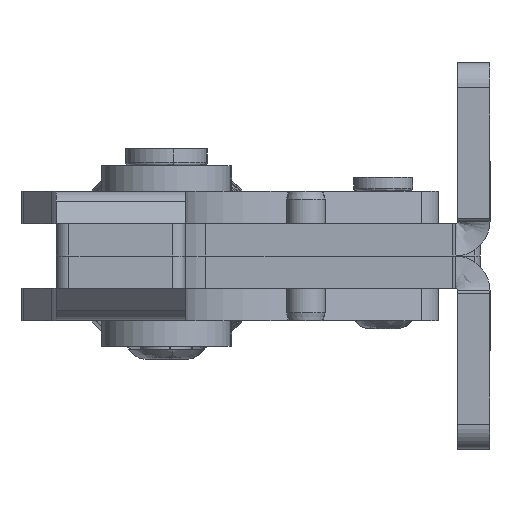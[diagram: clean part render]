
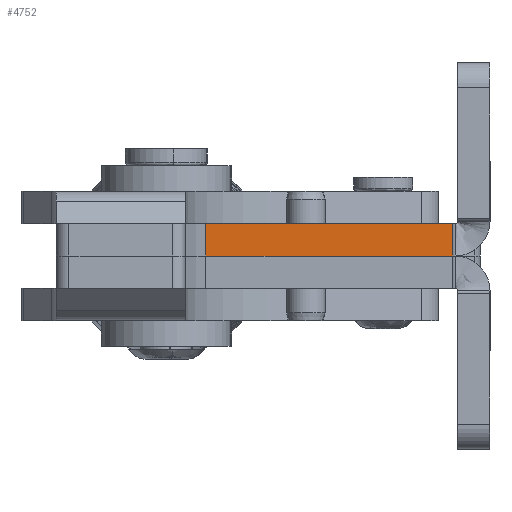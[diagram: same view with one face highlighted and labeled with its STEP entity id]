
A CAD part, left-side view. The second image highlights one B-rep face of the part: STEP entity #4752.
In plain terms, the highlighted planar face has unit normal (-1, 0, 0).
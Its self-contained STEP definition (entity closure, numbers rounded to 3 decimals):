
#445 = EDGE_CURVE ( 'NONE', #25328, #33955, #13674, .T. ) ;
#1380 = FACE_OUTER_BOUND ( 'NONE', #10436, .T. ) ;
#1576 = LINE ( 'NONE', #33835, #34513 ) ;
#4254 = ORIENTED_EDGE ( 'NONE', *, *, #14266, .F. ) ;
#4603 = DIRECTION ( 'NONE',  ( 0., 0., 1. ) ) ;
#4752 = ADVANCED_FACE ( 'NONE', ( #1380 ), #7178, .T. ) ;
#6475 = CARTESIAN_POINT ( 'NONE',  ( -30., 27.469, -5. ) ) ;
#6507 = VECTOR ( 'NONE', #4603, 1000. ) ;
#7178 = PLANE ( 'NONE',  #28578 ) ;
#7747 = DIRECTION ( 'NONE',  ( 0., 0., 1. ) ) ;
#8513 = DIRECTION ( 'NONE',  ( 0., 1., 0. ) ) ;
#8680 = VECTOR ( 'NONE', #29869, 1000. ) ;
#8697 = EDGE_CURVE ( 'NONE', #33955, #20407, #28830, .T. ) ;
#10436 = EDGE_LOOP ( 'NONE', ( #31614, #20835, #31926, #4254 ) ) ;
#12770 = CARTESIAN_POINT ( 'NONE',  ( -30., -39., -5. ) ) ;
#13674 = LINE ( 'NONE', #31085, #6507 ) ;
#14116 = CARTESIAN_POINT ( 'NONE',  ( -30., -39., 0. ) ) ;
#14266 = EDGE_CURVE ( 'NONE', #29458, #20407, #20960, .T. ) ;
#16482 = EDGE_CURVE ( 'NONE', #25328, #29458, #1576, .T. ) ;
#20407 = VERTEX_POINT ( 'NONE', #22311 ) ;
#20835 = ORIENTED_EDGE ( 'NONE', *, *, #445, .T. ) ;
#20960 = LINE ( 'NONE', #6475, #8680 ) ;
#22311 = CARTESIAN_POINT ( 'NONE',  ( -30., 27.469, 0. ) ) ;
#24755 = DIRECTION ( 'NONE',  ( -1., 0., 0. ) ) ;
#24765 = CARTESIAN_POINT ( 'NONE',  ( -30., 27.469, -5. ) ) ;
#25328 = VERTEX_POINT ( 'NONE', #27896 ) ;
#27896 = CARTESIAN_POINT ( 'NONE',  ( -30., -10.75, -5. ) ) ;
#28578 = AXIS2_PLACEMENT_3D ( 'NONE', #12770, #24755, #7747 ) ;
#28623 = VECTOR ( 'NONE', #8513, 1000. ) ;
#28830 = LINE ( 'NONE', #14116, #28623 ) ;
#29458 = VERTEX_POINT ( 'NONE', #24765 ) ;
#29869 = DIRECTION ( 'NONE',  ( 0., 0., 1. ) ) ;
#30393 = CARTESIAN_POINT ( 'NONE',  ( -30., -10.75, 0. ) ) ;
#30751 = DIRECTION ( 'NONE',  ( 0., 1., 0. ) ) ;
#31085 = CARTESIAN_POINT ( 'NONE',  ( -30., -10.75, -5. ) ) ;
#31614 = ORIENTED_EDGE ( 'NONE', *, *, #16482, .F. ) ;
#31926 = ORIENTED_EDGE ( 'NONE', *, *, #8697, .T. ) ;
#33835 = CARTESIAN_POINT ( 'NONE',  ( -30., 33.49, -5. ) ) ;
#33955 = VERTEX_POINT ( 'NONE', #30393 ) ;
#34513 = VECTOR ( 'NONE', #30751, 1000. ) ;
